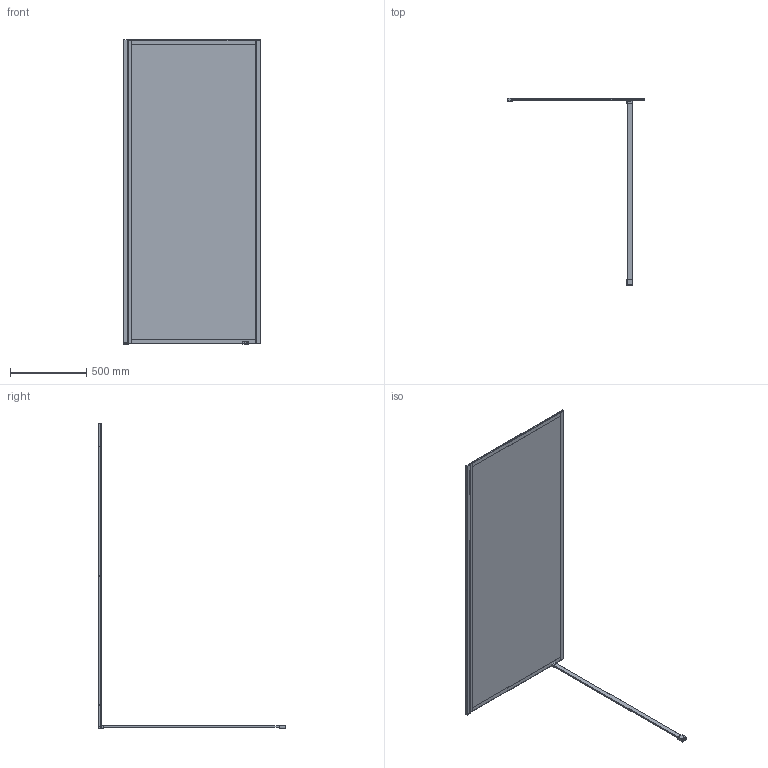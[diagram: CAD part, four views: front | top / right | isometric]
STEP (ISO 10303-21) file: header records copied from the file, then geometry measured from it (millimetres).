
FILE_DESCRIPTION((''),'2;1');
FILE_NAME('0-900-W703510-5_ASM_ASM','2022-06-11T10:43:49',('M'),(''),'CREO PARAMETRIC BY PTC INC, 2017110','CREO PARAMETRIC BY PTC INC, 2017110','');
FILE_SCHEMA(('CONFIG_CONTROL_DESIGN'));
Length unit declared in the file: millimetre
Products named in the file (16): 00_7_1; 00_6-1070_1; U-0001_4_1; U-0002_7_1; 00_ASM_5_ASM_1_ASM; 004_7_1; 00_3_1; 00_6-2741_1; 0047_5_1; 0046_4_1; M4-5_4_1; 20002_2_1; 00_10_1; 0-W703510-5_ASM_20_ASM_1_ASM; 0-900-W703510-5_ASM_ASM_1_ASM; 0-900-W703510-5_ASM_ASM
Assembly tree (22 placements, depth 5):
  0-900-W703510-5_ASM_ASM
    0-900-W703510-5_ASM_ASM_1_ASM
      0-W703510-5_ASM_20_ASM_1_ASM
        00_7_1
        00_ASM_5_ASM_1_ASM
          00_6-1070_1
          U-0001_4_1  x2
          U-0002_7_1  x2
        004_7_1
        00_3_1
        00_6-2741_1
        0047_5_1
        0046_4_1
        M4-5_4_1  x6
        20002_2_1
        00_10_1
Bounding box: 900 x 1234.72 x 2003 mm (x, y, z)
Volume: 17083735.8 mm3; surface area: 4285888.8 mm2
Topology: 19 solids, 19 shells, 357 faces, 944 edges, 638 vertices
Faces by surface type: cylinder 159, plane 158, bspline 36, cone 4
Entity records: 8630 total; most frequent: CARTESIAN_POINT 3764, DIRECTION 978, ORIENTED_EDGE 932, EDGE_CURVE 466, AXIS2_PLACEMENT_3D 346, VERTEX_POINT 316, VECTOR 286, LINE 286
